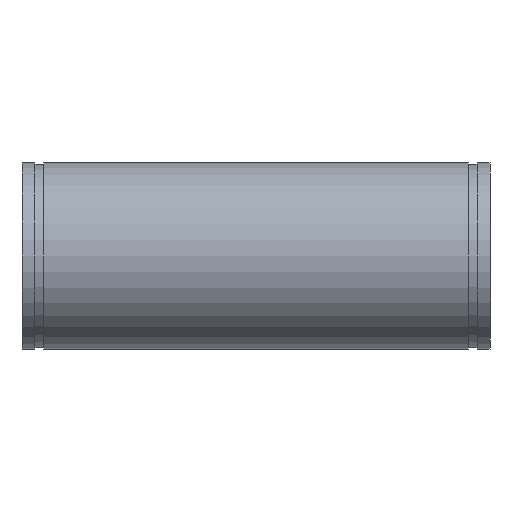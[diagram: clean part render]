
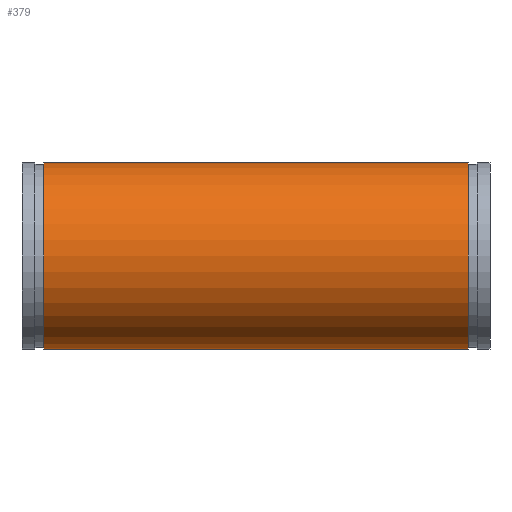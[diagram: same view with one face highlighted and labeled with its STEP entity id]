
A CAD part, left-side view. The second image highlights one B-rep face of the part: STEP entity #379.
In plain terms, the highlighted cylindrical face has radius 136.525 mm (diameter 273.05 mm), a full revolution.
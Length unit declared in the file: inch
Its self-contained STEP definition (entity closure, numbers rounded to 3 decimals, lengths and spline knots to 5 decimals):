
#45=ELLIPSE('',#439,14.04555,5.375);
#46=ELLIPSE('',#440,14.04555,5.375);
#47=ELLIPSE('',#441,5.81786,5.375);
#57=LINE('',#676,#68);
#68=VECTOR('',#544,5.375);
#79=CYLINDRICAL_SURFACE('',#438,5.375);
#90=FACE_BOUND('',#131,.T.);
#105=FACE_OUTER_BOUND('',#130,.T.);
#130=EDGE_LOOP('',(#292,#293,#294,#295));
#131=EDGE_LOOP('',(#296,#297,#298));
#154=CIRCLE('',#426,5.375);
#155=CIRCLE('',#428,5.375);
#181=VERTEX_POINT('',#653);
#182=VERTEX_POINT('',#656);
#189=VERTEX_POINT('',#677);
#190=VERTEX_POINT('',#678);
#191=VERTEX_POINT('',#680);
#218=EDGE_CURVE('',#181,#181,#154,.T.);
#219=EDGE_CURVE('',#182,#182,#155,.T.);
#228=EDGE_CURVE('',#181,#182,#57,.T.);
#229=EDGE_CURVE('',#189,#190,#45,.T.);
#230=EDGE_CURVE('',#190,#191,#46,.T.);
#231=EDGE_CURVE('',#191,#189,#47,.T.);
#292=ORIENTED_EDGE('',*,*,#218,.T.);
#293=ORIENTED_EDGE('',*,*,#228,.T.);
#294=ORIENTED_EDGE('',*,*,#219,.T.);
#295=ORIENTED_EDGE('',*,*,#228,.F.);
#296=ORIENTED_EDGE('',*,*,#229,.T.);
#297=ORIENTED_EDGE('',*,*,#230,.T.);
#298=ORIENTED_EDGE('',*,*,#231,.T.);
#379=ADVANCED_FACE('',(#105,#90),#79,.T.);
#426=AXIS2_PLACEMENT_3D('',#654,#516,#517);
#428=AXIS2_PLACEMENT_3D('',#657,#520,#521);
#438=AXIS2_PLACEMENT_3D('',#675,#542,#543);
#439=AXIS2_PLACEMENT_3D('',#679,#545,#546);
#440=AXIS2_PLACEMENT_3D('',#681,#547,#548);
#441=AXIS2_PLACEMENT_3D('',#682,#549,#550);
#516=DIRECTION('center_axis',(0.,1.,0.));
#517=DIRECTION('ref_axis',(1.,0.,0.));
#520=DIRECTION('center_axis',(0.,-1.,0.));
#521=DIRECTION('ref_axis',(1.,0.,0.));
#542=DIRECTION('center_axis',(0.,-1.,0.));
#543=DIRECTION('ref_axis',(1.,0.,0.));
#544=DIRECTION('',(0.,1.,0.));
#545=DIRECTION('center_axis',(-0.924,0.383,0.));
#546=DIRECTION('ref_axis',(-0.383,-0.924,0.));
#547=DIRECTION('center_axis',(-0.924,0.383,0.));
#548=DIRECTION('ref_axis',(-0.383,-0.924,0.));
#549=DIRECTION('center_axis',(-0.383,-0.924,0.));
#550=DIRECTION('ref_axis',(0.924,-0.383,0.));
#653=CARTESIAN_POINT('',(-5.375,-5.25,0.));
#654=CARTESIAN_POINT('Origin',(0.,-5.25,0.));
#656=CARTESIAN_POINT('',(-5.375,19.25,0.));
#657=CARTESIAN_POINT('Origin',(0.,19.25,0.));
#675=CARTESIAN_POINT('Origin',(0.,20.5,0.));
#676=CARTESIAN_POINT('',(-5.375,20.5,0.));
#677=CARTESIAN_POINT('',(0.,0.,5.375));
#678=CARTESIAN_POINT('',(5.375,12.9764,0.));
#679=CARTESIAN_POINT('Origin',(0.,0.,0.));
#680=CARTESIAN_POINT('',(0.,0.,-5.375));
#681=CARTESIAN_POINT('Origin',(0.,0.,0.));
#682=CARTESIAN_POINT('Origin',(0.,0.,
0.));
